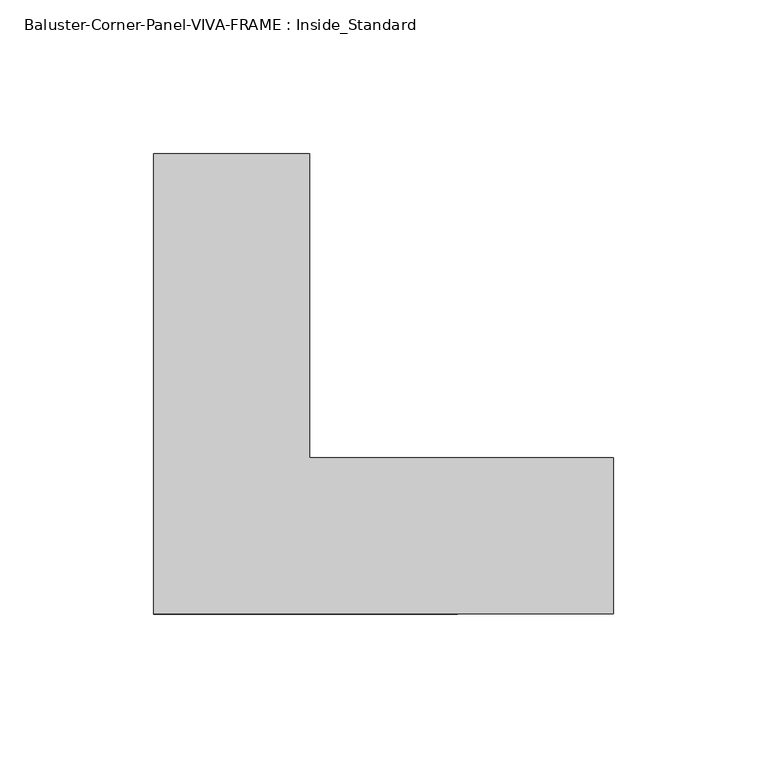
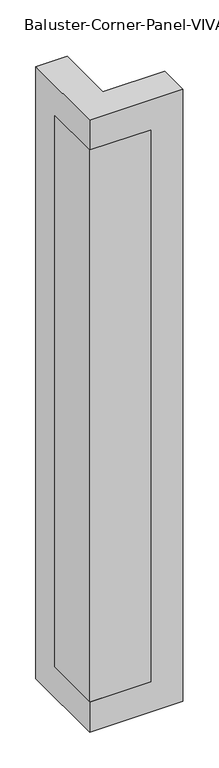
"""IFC4 building model written with IfcOpenShell, lengths in millimetres: railing geometry, Baluster-Corner-Panel-VIVA-FRAME : Inside_Standard."""

from ifc_helpers import new_model, si_unit, frame, origin, place, context, project, spatial, polyline, outline, extrude, faceted_brep, source, transform, mapped, element, save


def baluster_corner_panel_viva_frame_inside_standard_6796b24e(model_context):
    return source(origin(), model_context, "Body", "SolidModel", [
        faceted_brep([(0.0, 149.86, 76.4512), (0.0, 149.86, 1117.6), (50.8, 149.86, 1117.6), (50.8, 149.86, 76.4512), (0.0, 0.0, 127.2512), (0.0, 99.06, 127.2512), (0.0, 99.06, 1066.8), (0.0, 0.0, 1066.8), (0.0, 0.0, 1117.6), (0.0, 0.0, 76.4512), (149.86, 0.0, 76.4512), (149.86, 0.0, 1117.6), (99.06, 0.0, 1066.8), (99.06, 0.0, 127.2512), (149.86, 50.8, 76.4512), (149.86, 50.8, 1117.6), (50.8, 50.8, 1117.6), (50.8, 50.8, 1111.6056), (50.8, 143.8656, 1111.6056), (50.8, 143.8656, 82.4456), (50.8, 50.8, 82.4456), (50.8, 50.8, 76.4512), (143.8656, 50.8, 1111.6056), (143.8656, 19.9898, 1111.6056), (19.9898, 19.9898, 1111.6056), (19.9898, 143.8656, 1111.6056), (19.9898, 19.9898, 1066.8), (19.9898, 99.06, 1066.8), (19.9898, 99.06, 127.2512), (19.9898, 19.9898, 127.2512), (19.9898, 19.9898, 82.4456), (19.9898, 143.8656, 82.4456), (99.06, 19.9898, 1066.8), (143.8656, 50.8, 82.4456), (143.8656, 19.9898, 82.4456), (99.06, 19.9898, 127.2512)], [[[0, 1, 2, 3]], [[4, 5, 6, 7, 8, 1, 0, 9]], [[4, 9, 10, 11, 8, 7, 12, 13]], [[14, 15, 11, 10]], [[16, 17, 18, 19, 20, 21, 3, 2]], [[17, 22, 23, 24, 25, 18]], [[24, 26, 27, 28, 29, 30, 31, 25]], [[12, 7, 6, 27, 26, 32]], [[2, 1, 8, 11, 15, 16]], [[17, 16, 15, 14, 21, 20, 33, 22]], [[26, 24, 23, 34, 30, 29, 35, 32]], [[21, 14, 10, 9, 0, 3]], [[34, 23, 22, 33]], [[12, 32, 35, 13]], [[27, 6, 5, 28]], [[18, 25, 31, 19]], [[4, 13, 35, 29, 28, 5]], [[20, 19, 31, 30, 34, 33]]]),
        extrude(outline(polyline([(124.86, 0.0), (0.0, 0.0), (0.0, 124.86), (3.0, 124.86), (3.0, 3.0), (124.86, 3.0), (124.86, 0.0)])), frame((0.0, 0.0, 101.4512), z_axis=(0.0, 0.0, 1.0), x_axis=(1.0, 0.0, 0.0)), (0.0, 0.0, 1.0), 991.1488),
    ])


if __name__ == "__main__":
    model = new_model("IFC4")
    model_context = context("Model", 3, world=origin())
    ifc_project = project(units=[si_unit("LENGTHUNIT", "METRE", prefix="MILLI")], contexts=[model_context])
    site = spatial("IfcSite", under=ifc_project)
    building = spatial("IfcBuilding", under=site)
    placement = place(None, origin())
    baluster_corner_panel_viva_frame_inside_standard_shape = baluster_corner_panel_viva_frame_inside_standard_6796b24e(model_context)
    element("IfcRailing", 1, ObjectType="Baluster-Corner-Panel-VIVA-FRAME : Inside_Standard", at=placement, inside=building, context=model_context, shape_type="MappedRepresentation", body=[
        mapped(baluster_corner_panel_viva_frame_inside_standard_shape, transform((0.0, 0.0, 0.0), x_axis=(1.0, 0.0, 0.0), y_axis=(0.0, 1.0, 0.0), z_axis=(0.0, 0.0, 1.0))),
    ])
    save(model, "model.ifc")
